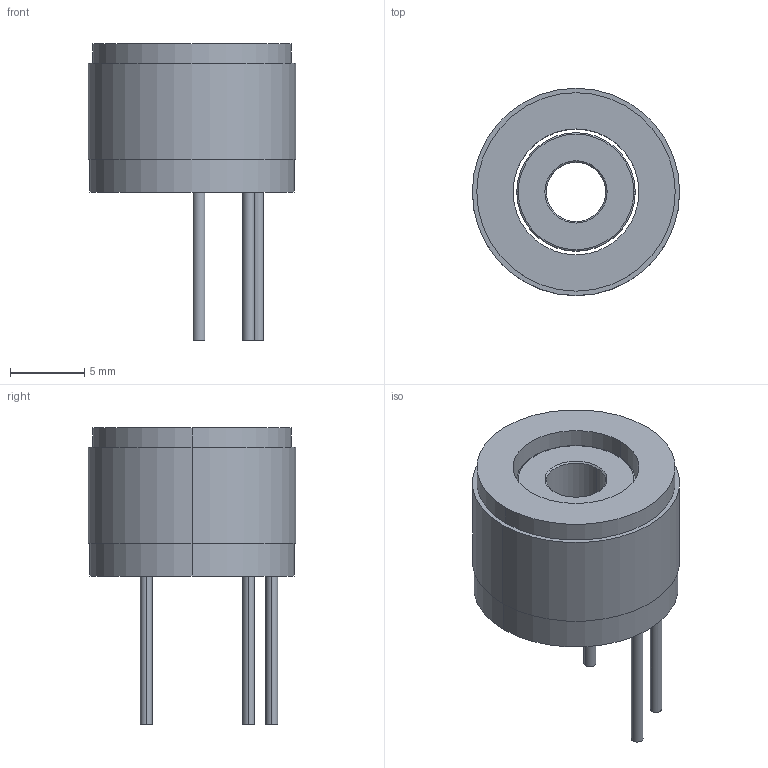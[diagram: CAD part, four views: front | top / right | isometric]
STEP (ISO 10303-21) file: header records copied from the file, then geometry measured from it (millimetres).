
FILE_DESCRIPTION (( 'STEP AP203' ), '1' );
FILE_NAME ('U1410电机模型（更新）.STEP', '2026-07-08T05:56:17', ( 'Windows User' ), ( 'P R C' ), 'SwSTEP 2.0', 'SolidWorks 2023', '' );
FILE_SCHEMA (( 'CONFIG_CONTROL_DESIGN' ));
Length unit declared in the file: millimetre
Products named in the file (1): U1410电机模型（更新）
Bounding box: 14 x 14 x 20 mm (x, y, z)
Volume: 1228 mm3; surface area: 1312.3 mm2
Topology: 2 solids, 2 shells, 35 faces, 70 edges, 44 vertices
Faces by surface type: cylinder 18, plane 9, cone 4, torus 4
Entity records: 1011 total; most frequent: DIRECTION 190, CARTESIAN_POINT 150, ORIENTED_EDGE 140, AXIS2_PLACEMENT_3D 84, EDGE_CURVE 70, CIRCLE 48, VERTEX_POINT 44, EDGE_LOOP 44
